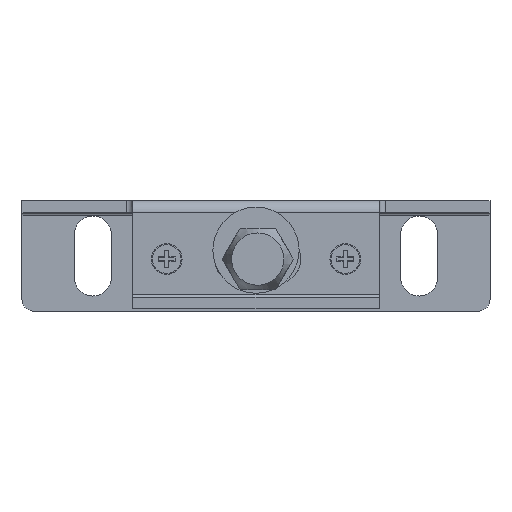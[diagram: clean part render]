
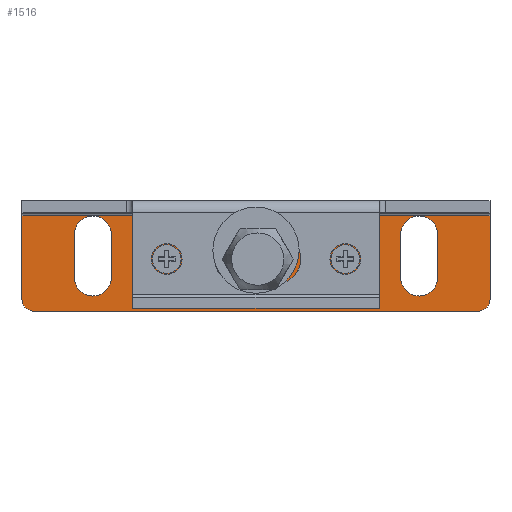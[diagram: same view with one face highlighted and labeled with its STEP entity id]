
A CAD part, front view. The second image highlights one B-rep face of the part: STEP entity #1516.
In plain terms, the highlighted planar face has unit normal (0, -1, 0).
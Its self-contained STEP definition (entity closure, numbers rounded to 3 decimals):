
#88=FACE_OUTER_BOUND('',#181,.T.);
#181=EDGE_LOOP('',(#1069,#1070,#1071,#1072,#1073,#1074,#1075,#1076,#1077,
#1078,#1079,#1080,#1081,#1082,#1083,#1084,#1085,#1086));
#295=LINE('',#2245,#453);
#305=LINE('',#2278,#463);
#309=LINE('',#2290,#467);
#310=LINE('',#2294,#468);
#311=LINE('',#2298,#469);
#312=LINE('',#2301,#470);
#313=LINE('',#2305,#471);
#314=LINE('',#2309,#472);
#315=LINE('',#2311,#473);
#316=LINE('',#2312,#474);
#453=VECTOR('',#1802,10.);
#463=VECTOR('',#1830,10.);
#467=VECTOR('',#1840,10.);
#468=VECTOR('',#1843,10.);
#469=VECTOR('',#1846,10.);
#470=VECTOR('',#1849,10.);
#471=VECTOR('',#1852,10.);
#472=VECTOR('',#1855,10.);
#473=VECTOR('',#1858,10.);
#474=VECTOR('',#1859,10.);
#604=CIRCLE('',#1622,2.);
#613=CIRCLE('',#1634,2.);
#616=CIRCLE('',#1639,3.);
#617=CIRCLE('',#1640,3.);
#618=CIRCLE('',#1641,3.);
#619=CIRCLE('',#1642,3.);
#620=CIRCLE('',#1643,3.);
#621=CIRCLE('',#1644,3.);
#657=VERTEX_POINT('',#2224);
#658=VERTEX_POINT('',#2225);
#666=VERTEX_POINT('',#2243);
#678=VERTEX_POINT('',#2271);
#679=VERTEX_POINT('',#2273);
#680=VERTEX_POINT('',#2277);
#685=VERTEX_POINT('',#2289);
#686=VERTEX_POINT('',#2291);
#687=VERTEX_POINT('',#2293);
#688=VERTEX_POINT('',#2295);
#689=VERTEX_POINT('',#2297);
#690=VERTEX_POINT('',#2300);
#691=VERTEX_POINT('',#2302);
#692=VERTEX_POINT('',#2304);
#693=VERTEX_POINT('',#2306);
#694=VERTEX_POINT('',#2308);
#808=EDGE_CURVE('',#657,#658,#604,.T.);
#818=EDGE_CURVE('',#666,#657,#295,.T.);
#832=EDGE_CURVE('',#678,#679,#613,.T.);
#834=EDGE_CURVE('',#680,#679,#305,.T.);
#840=EDGE_CURVE('',#685,#666,#309,.T.);
#841=EDGE_CURVE('',#685,#686,#616,.T.);
#842=EDGE_CURVE('',#686,#687,#310,.T.);
#843=EDGE_CURVE('',#687,#688,#617,.T.);
#844=EDGE_CURVE('',#688,#689,#311,.T.);
#845=EDGE_CURVE('',#689,#685,#618,.T.);
#846=EDGE_CURVE('',#690,#685,#312,.T.);
#847=EDGE_CURVE('',#690,#691,#619,.T.);
#848=EDGE_CURVE('',#691,#692,#313,.T.);
#849=EDGE_CURVE('',#692,#693,#620,.T.);
#850=EDGE_CURVE('',#693,#694,#314,.T.);
#851=EDGE_CURVE('',#694,#690,#621,.T.);
#852=EDGE_CURVE('',#680,#690,#315,.T.);
#853=EDGE_CURVE('',#658,#678,#316,.T.);
#1069=ORIENTED_EDGE('',*,*,#808,.F.);
#1070=ORIENTED_EDGE('',*,*,#818,.F.);
#1071=ORIENTED_EDGE('',*,*,#840,.F.);
#1072=ORIENTED_EDGE('',*,*,#841,.T.);
#1073=ORIENTED_EDGE('',*,*,#842,.T.);
#1074=ORIENTED_EDGE('',*,*,#843,.T.);
#1075=ORIENTED_EDGE('',*,*,#844,.T.);
#1076=ORIENTED_EDGE('',*,*,#845,.T.);
#1077=ORIENTED_EDGE('',*,*,#846,.F.);
#1078=ORIENTED_EDGE('',*,*,#847,.T.);
#1079=ORIENTED_EDGE('',*,*,#848,.T.);
#1080=ORIENTED_EDGE('',*,*,#849,.T.);
#1081=ORIENTED_EDGE('',*,*,#850,.T.);
#1082=ORIENTED_EDGE('',*,*,#851,.T.);
#1083=ORIENTED_EDGE('',*,*,#852,.F.);
#1084=ORIENTED_EDGE('',*,*,#834,.T.);
#1085=ORIENTED_EDGE('',*,*,#832,.F.);
#1086=ORIENTED_EDGE('',*,*,#853,.F.);
#1447=PLANE('',#1638);
#1516=ADVANCED_FACE('',(#88),#1447,.T.);
#1622=AXIS2_PLACEMENT_3D('',#2226,#1786,#1787);
#1634=AXIS2_PLACEMENT_3D('',#2274,#1825,#1826);
#1638=AXIS2_PLACEMENT_3D('',#2288,#1838,#1839);
#1639=AXIS2_PLACEMENT_3D('',#2292,#1841,#1842);
#1640=AXIS2_PLACEMENT_3D('',#2296,#1844,#1845);
#1641=AXIS2_PLACEMENT_3D('',#2299,#1847,#1848);
#1642=AXIS2_PLACEMENT_3D('',#2303,#1850,#1851);
#1643=AXIS2_PLACEMENT_3D('',#2307,#1853,#1854);
#1644=AXIS2_PLACEMENT_3D('',#2310,#1856,#1857);
#1786=DIRECTION('center_axis',(0.,1.,0.));
#1787=DIRECTION('ref_axis',(0.707,0.,-0.707));
#1802=DIRECTION('',(0.,0.,-1.));
#1825=DIRECTION('center_axis',(0.,1.,0.));
#1826=DIRECTION('ref_axis',(-0.707,0.,-0.707));
#1830=DIRECTION('',(0.,0.,-1.));
#1838=DIRECTION('center_axis',(0.,-1.,0.));
#1839=DIRECTION('ref_axis',(-1.,0.,0.));
#1840=DIRECTION('',(1.,0.,0.));
#1841=DIRECTION('center_axis',(0.,1.,0.));
#1842=DIRECTION('ref_axis',(-1.,0.,0.));
#1843=DIRECTION('',(0.,0.,-1.));
#1844=DIRECTION('center_axis',(0.,1.,0.));
#1845=DIRECTION('ref_axis',(1.,0.,0.));
#1846=DIRECTION('',(0.,0.,1.));
#1847=DIRECTION('center_axis',(0.,1.,0.));
#1848=DIRECTION('ref_axis',(-1.,0.,0.));
#1849=DIRECTION('',(1.,0.,0.));
#1850=DIRECTION('center_axis',(0.,1.,0.));
#1851=DIRECTION('ref_axis',(1.,0.,0.));
#1852=DIRECTION('',(0.,0.,-1.));
#1853=DIRECTION('center_axis',(0.,1.,0.));
#1854=DIRECTION('ref_axis',(-1.,0.,0.));
#1855=DIRECTION('',(0.,0.,1.));
#1856=DIRECTION('center_axis',(0.,1.,0.));
#1857=DIRECTION('ref_axis',(1.,0.,0.));
#1858=DIRECTION('',(1.,0.,0.));
#1859=DIRECTION('',(-1.,0.,0.));
#2224=CARTESIAN_POINT('',(38.,-44.275,47.775));
#2225=CARTESIAN_POINT('',(36.,-44.275,45.775));
#2226=CARTESIAN_POINT('Origin',(36.,-44.275,47.775));
#2243=CARTESIAN_POINT('',(38.,-44.275,61.275));
#2245=CARTESIAN_POINT('',(38.,-44.275,61.775));
#2271=CARTESIAN_POINT('',(-36.,-44.275,45.775));
#2273=CARTESIAN_POINT('',(-38.,-44.275,47.775));
#2274=CARTESIAN_POINT('Origin',(-36.,-44.275,47.775));
#2277=CARTESIAN_POINT('',(-38.,-44.275,61.275));
#2278=CARTESIAN_POINT('',(-38.,-44.275,61.775));
#2288=CARTESIAN_POINT('Origin',(38.,-44.275,61.775));
#2289=CARTESIAN_POINT('',(26.5,-44.275,61.275));
#2290=CARTESIAN_POINT('',(19.,-44.275,61.275));
#2291=CARTESIAN_POINT('',(29.5,-44.275,58.275));
#2292=CARTESIAN_POINT('Origin',(26.5,-44.275,58.275));
#2293=CARTESIAN_POINT('',(29.5,-44.275,51.275));
#2294=CARTESIAN_POINT('',(29.5,-44.275,56.525));
#2295=CARTESIAN_POINT('',(23.5,-44.275,51.275));
#2296=CARTESIAN_POINT('Origin',(26.5,-44.275,51.275));
#2297=CARTESIAN_POINT('',(23.5,-44.275,58.275));
#2298=CARTESIAN_POINT('',(23.5,-44.275,60.025));
#2299=CARTESIAN_POINT('Origin',(26.5,-44.275,58.275));
#2300=CARTESIAN_POINT('',(-26.5,-44.275,61.275));
#2301=CARTESIAN_POINT('',(19.,-44.275,61.275));
#2302=CARTESIAN_POINT('',(-23.5,-44.275,58.275));
#2303=CARTESIAN_POINT('Origin',(-26.5,-44.275,58.275));
#2304=CARTESIAN_POINT('',(-23.5,-44.275,51.275));
#2305=CARTESIAN_POINT('',(-23.5,-44.275,60.025));
#2306=CARTESIAN_POINT('',(-29.5,-44.275,51.275));
#2307=CARTESIAN_POINT('Origin',(-26.5,-44.275,51.275));
#2308=CARTESIAN_POINT('',(-29.5,-44.275,58.275));
#2309=CARTESIAN_POINT('',(-29.5,-44.275,56.525));
#2310=CARTESIAN_POINT('Origin',(-26.5,-44.275,58.275));
#2311=CARTESIAN_POINT('',(19.,-44.275,61.275));
#2312=CARTESIAN_POINT('',(38.,-44.275,45.775));
